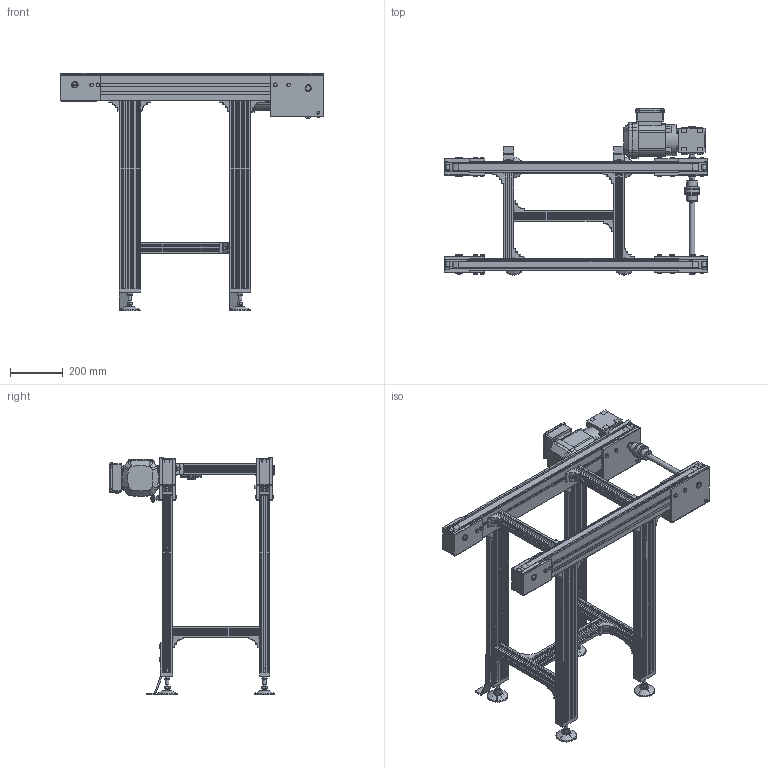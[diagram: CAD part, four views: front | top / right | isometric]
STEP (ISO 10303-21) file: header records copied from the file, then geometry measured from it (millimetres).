
FILE_DESCRIPTION(/* description */ (''),/* implementation_level */ '2;1');
FILE_NAME(/* name */ 'C:\Marketing\01_Versamove-SPU_STEP-Dateien-Homepage\VersamoveStandard\B400\STEP-Dateien\Zahnriemenförderer_ZRF-P-2045_B400_L1000.stp',/* time_stamp */ '2016-12-21T14:27:05+01:00',/* author */ ('herbert.engels'),/* organization */ (''),/* preprocessor_version */ 'ST-DEVELOPER v15.6',/* originating_system */ 'Autodesk Inventor 2015',/* authorisation */ '');
FILE_SCHEMA (('CONFIG_CONTROL_DESIGN'));
Products named in the file (1): Zahnriemenförderer_ZRF-P-2045_B400_L1000
Bounding box: 1000 x 630.57 x 905 mm (x, y, z)
Volume: 18412692.4 mm3; surface area: 4708548.7 mm2
Topology: 5 solids, 5 shells, 4999 faces, 13517 edges, 8731 vertices
Faces by surface type: plane 3134, cylinder 1310, cone 362, torus 127, sphere 50, bspline 16
Full cylindrical faces by diameter (mm): 2 x8, 6 x12, 6.647 x8, 7.323 x4, 8 x70, 8.7 x4, 9 x8, 10 x4, 10.066 x1, 11.4 x22, 12 x8, 13 x72, 13.6 x8, 14 x40, 15 x8, 18 x4, 19 x4, 19.77 x4, 20 x13, 25 x1, 25.05 x4, 28 x1, 30 x2, 40 x2, 53 x1, 54 x2, 56 x3, 79 x4, 117 x1
Entity records: 161865 total; most frequent: CARTESIAN_POINT 32186, ORIENTED_EDGE 25728, DIRECTION 25280, EDGE_CURVE 12863, LINE 8592, VECTOR 8592, VERTEX_POINT 8571, AXIS2_PLACEMENT_3D 8344
